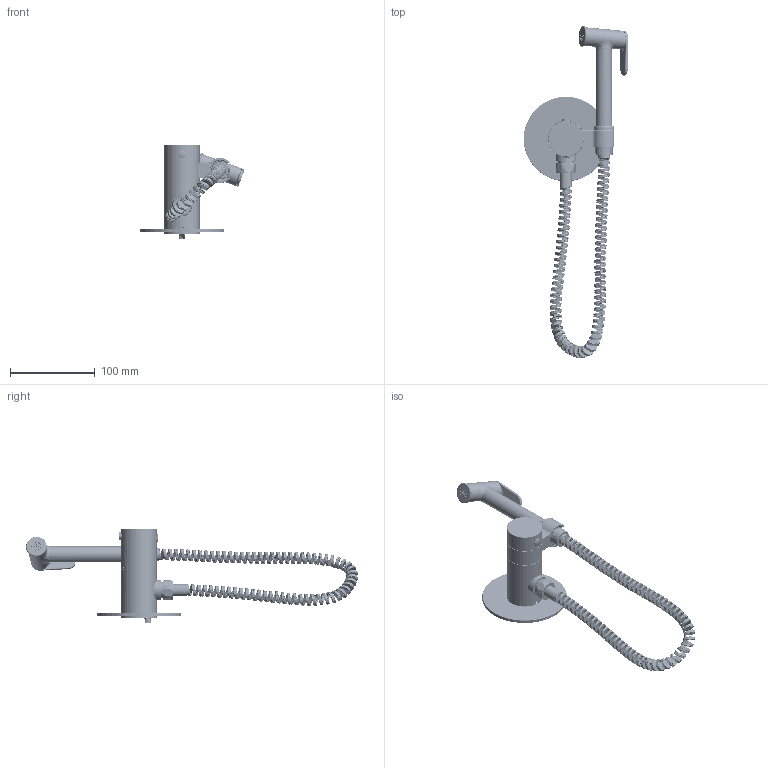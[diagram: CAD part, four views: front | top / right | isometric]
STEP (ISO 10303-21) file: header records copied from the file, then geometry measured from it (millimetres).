
FILE_DESCRIPTION((''),'2;1');
FILE_NAME('PT-829909_ASM','2024-06-20T09:22:22',('GL-JISHU1'),(''),'CREO PARAMETRIC BY PTC INC, 2021063','CREO PARAMETRIC BY PTC INC, 2021063','');
FILE_SCHEMA(('AUTOMOTIVE_DESIGN { 1 0 10303 214 1 1 1 1 }'));
Length unit declared in the file: millimetre
Products named in the file (44): 4ZT-829909-AJJ_AF0; 4JT-001317-AJJ_AF0; 5ZT-829909-ACR_AF0_ASM; 3FX-001040-MAA_AF0; 3SJ-001137-MAA_AF0; 4YG-001046-AJJ_AF0; 3SJ-001050-MAA_AF0; 3LS-001130-JAA_AF0; 3LS-001064-JAA_AF0; 5MB-001069-KCR_AF0; 3JQ-001600-NAA_AF0; 5LM-001054-ACR_AF0; 5BS-829909-ACR_AF0; 4YG-001045-MJJ_AF0; 3HZ-001048-HCR_AF0; 3SJ-001050-MAA_AF1; 3SJ-001128-MAA; 5SN-001013-ACR_AF0; 3SN-001001-MCR_AF0; 3LS-001023-JAA_AF0; 3TH-001001-JAA_AF0; 3LS-001126-JAA_AF0; 3LS-001297-JAA_AF0; 3LS-001297-JAA_AF1; 3RG-001046-JCR_AF0; 3SJ-001123-MAA; 3ZT-PQ01-HCR_AF0; 3WK-001019-MCR; 3JQ-001549-NAA; 3TH-001003-JAA; 4JT-001294-AJJ; 3BS-PQ01-HCR; 3JQ-001085-NAA; 4JT-001295-AJJ; 3JQ-001581-NAA; 4TG-001046-JJJ; 5JT-001296-ACR; 3JQ-001580-NAA; 3SJ-001122-MAA; 3JQ-001050-NAA_AF0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
Assembly tree (44 placements, depth 3):
  PT-829909_ASM
    5ZT-829909-ACR_AF0_ASM
      4ZT-829909-AJJ_AF0
      4JT-001317-AJJ_AF0
    3FX-001040-MAA_AF0
    3SJ-001137-MAA_AF0
    4YG-001046-AJJ_AF0
    3SJ-001050-MAA_AF0
    3LS-001130-JAA_AF0
    3LS-001064-JAA_AF0
    5MB-001069-KCR_AF0
    3JQ-001600-NAA_AF0
    5LM-001054-ACR_AF0
    5BS-829909-ACR_AF0
    4YG-001045-MJJ_AF0
    3HZ-001048-HCR_AF0
    3SJ-001050-MAA_AF1
    3SJ-001128-MAA
    5SN-001013-ACR_AF0
    3SN-001001-MCR_AF0
    3LS-001023-JAA_AF0
    3TH-001001-JAA_AF0
    3LS-001126-JAA_AF0
    3LS-001297-JAA_AF0
    3LS-001297-JAA_AF1
    3RG-001046-JCR_AF0
    PT-PQ01_AF0_ASM
      3SJ-001123-MAA
      3ZT-PQ01-HCR_AF0
      3WK-001019-MCR
      3JQ-001549-NAA
      3TH-001003-JAA
      4JT-001294-AJJ
      3BS-PQ01-HCR
      3JQ-001085-NAA
      4JT-001295-AJJ
      3JQ-001581-NAA
      4TG-001046-JJJ
      5JT-001296-ACR
      3JQ-001580-NAA
      3SJ-001122-MAA
      3JQ-001050-NAA_AF0
      3JQ-001582-NAA  x2
      3LS-001809-JAA
Bounding box: 123.73 x 392.1 x 111.4 mm (x, y, z)
Volume: 200225.7 mm3; surface area: 147966.3 mm2
Topology: 39 solids, 39 shells, 1448 faces, 3565 edges, 2237 vertices
Faces by surface type: cylinder 493, plane 478, torus 170, cone 150, bspline 147, sphere 8, extrusion 2
Entity records: 152927 total; most frequent: CARTESIAN_POINT 110362, ORIENTED_EDGE 7080, DIRECTION 6517, EDGE_CURVE 3540, AXIS2_PLACEMENT_3D 2639, VERTEX_POINT 2233, PRESENTATION_STYLE_ASSIGNMENT 2105, STYLED_ITEM 2089
